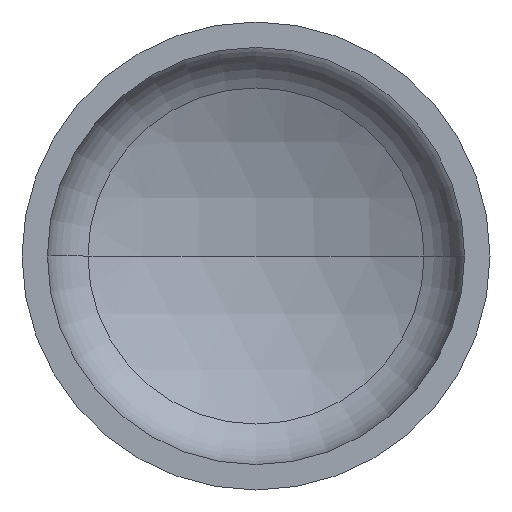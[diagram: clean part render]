
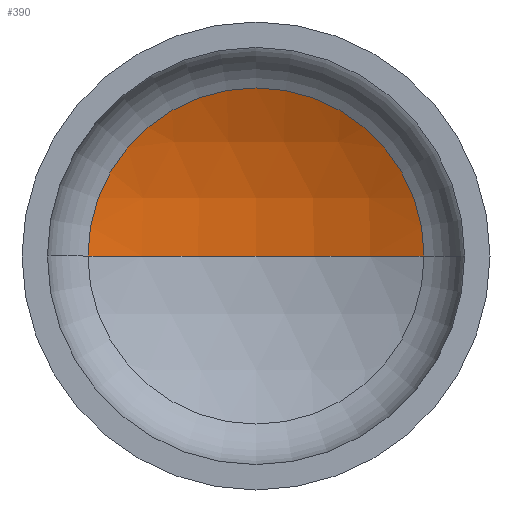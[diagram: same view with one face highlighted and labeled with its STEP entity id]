
A CAD part, front view. The second image highlights one B-rep face of the part: STEP entity #390.
In plain terms, the highlighted spherical face has radius 560 mm.
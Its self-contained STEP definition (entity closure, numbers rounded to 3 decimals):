
#2 = AXIS2_PLACEMENT_3D ( 'NONE', #237, #112, #311 ) ;
#25 = AXIS2_PLACEMENT_3D ( 'NONE', #70, #395, #201 ) ;
#29 = AXIS2_PLACEMENT_3D ( 'NONE', #270, #191, #187 ) ;
#31 = AXIS2_PLACEMENT_3D ( 'NONE', #151, #161, #163 ) ;
#40 = CARTESIAN_POINT ( 'NONE',  ( 0., 277.886, 0. ) ) ;
#63 = VERTEX_POINT ( 'NONE', #320 ) ;
#68 = ORIENTED_EDGE ( 'NONE', *, *, #104, .F. ) ;
#70 = CARTESIAN_POINT ( 'NONE',  ( 0., 218.295, 0. ) ) ;
#97 = ORIENTED_EDGE ( 'NONE', *, *, #162, .T. ) ;
#104 = EDGE_CURVE ( 'NONE', #268, #143, #366, .T. ) ;
#112 = DIRECTION ( 'NONE',  ( 0., 0., -1. ) ) ;
#120 = EDGE_CURVE ( 'NONE', #268, #63, #356, .T. ) ;
#143 = VERTEX_POINT ( 'NONE', #174 ) ;
#151 = CARTESIAN_POINT ( 'NONE',  ( 0., -282.114, 0. ) ) ;
#161 = DIRECTION ( 'NONE',  ( 0., 0., 1. ) ) ;
#162 = EDGE_CURVE ( 'NONE', #63, #143, #267, .T. ) ;
#163 = DIRECTION ( 'NONE',  ( 1., 0., 0. ) ) ;
#174 = CARTESIAN_POINT ( 'NONE',  ( -251.378, 218.295, 0. ) ) ;
#187 = DIRECTION ( 'NONE',  ( -1., 0., 0. ) ) ;
#191 = DIRECTION ( 'NONE',  ( 0., 0., -1. ) ) ;
#201 = DIRECTION ( 'NONE',  ( 1., 0., 0. ) ) ;
#217 = SPHERICAL_SURFACE ( 'NONE', #2, 560. ) ;
#237 = CARTESIAN_POINT ( 'NONE',  ( 0., -282.114, 0. ) ) ;
#267 = CIRCLE ( 'NONE', #25, 251.378 ) ;
#268 = VERTEX_POINT ( 'NONE', #40 ) ;
#270 = CARTESIAN_POINT ( 'NONE',  ( 0., -282.114, 0. ) ) ;
#287 = ORIENTED_EDGE ( 'NONE', *, *, #120, .T. ) ;
#295 = FACE_OUTER_BOUND ( 'NONE', #405, .T. ) ;
#311 = DIRECTION ( 'NONE',  ( -1., 0., 0. ) ) ;
#320 = CARTESIAN_POINT ( 'NONE',  ( 251.378, 218.295, 0. ) ) ;
#356 = CIRCLE ( 'NONE', #29, 560. ) ;
#366 = CIRCLE ( 'NONE', #31, 560. ) ;
#390 = ADVANCED_FACE ( 'NONE', ( #295 ), #217, .F. ) ;
#395 = DIRECTION ( 'NONE',  ( 0., -1., 0. ) ) ;
#405 = EDGE_LOOP ( 'NONE', ( #68, #287, #97 ) ) ;
